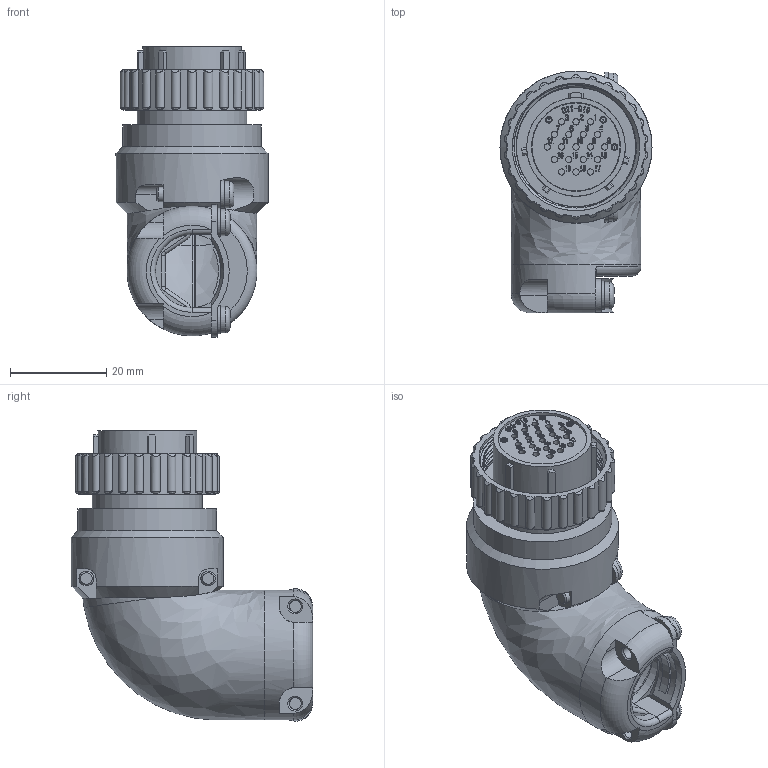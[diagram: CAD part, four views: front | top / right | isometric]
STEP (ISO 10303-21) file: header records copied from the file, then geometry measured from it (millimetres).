
FILE_DESCRIPTION (( 'STEP AP203' ), '1' );
FILE_NAME ('JMLP2119FM-D.STEP', '2021-07-07T02:39:13', ( '' ), ( '' ), 'SwSTEP 2.0', 'SolidWorks 2018', '' );
FILE_SCHEMA (( 'CONFIG_CONTROL_DESIGN' ));
Length unit declared in the file: millimetre
Products named in the file (1): JMLP2119FM-D
Bounding box: 31.6 x 50.2 x 60.33 mm (x, y, z)
Volume: 21922.2 mm3; surface area: 17565.5 mm2
Topology: 1 solids, 1 shells, 1899 faces, 5148 edges, 3393 vertices
Faces by surface type: plane 821, bspline 760, cylinder 233, cone 66, torus 19
Full cylindrical faces by diameter (mm): 1.1 x22, 1.2 x1, 1.3 x19, 1.4 x4, 1.55 x19, 2.5 x2, 3 x2, 5.5 x4, 15.2 x1, 18.1 x1, 18.3 x1, 18.5 x1, 20.1 x1, 20.5 x1, 22.7 x1, 22.8 x1, 24.8 x1, 26.1 x1, 26.2 x1, 26.5 x1, 27 x1, 28.5 x1, 28.8 x1, 31.6 x1
Entity records: 85588 total; most frequent: CARTESIAN_POINT 43913, ORIENTED_EDGE 9952, DIRECTION 5962, EDGE_CURVE 4976, VERTEX_POINT 3350, VECTOR 2640, LINE 2640, EDGE_LOOP 2172
